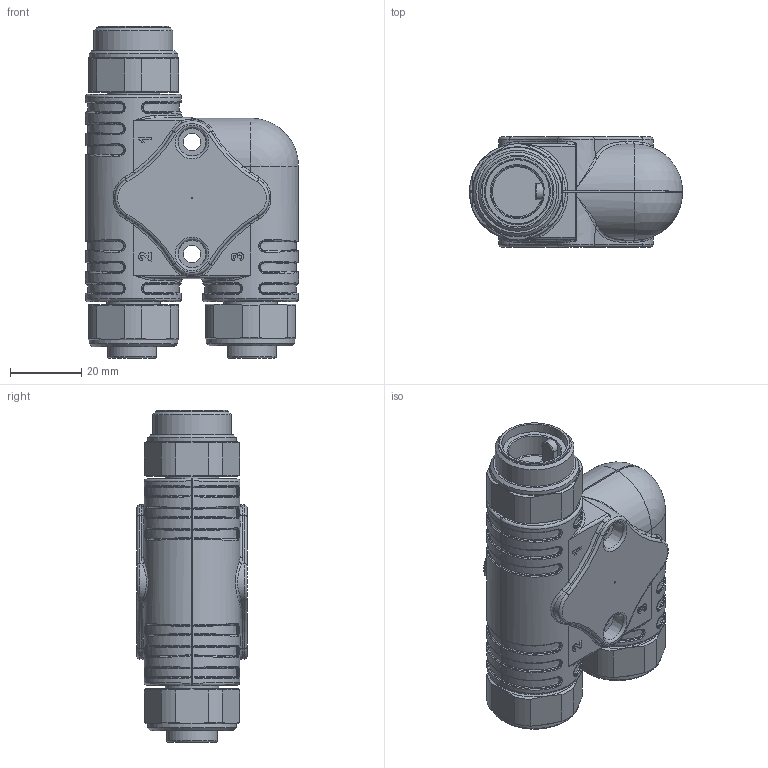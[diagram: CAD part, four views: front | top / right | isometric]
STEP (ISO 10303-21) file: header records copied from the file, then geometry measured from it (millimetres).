
FILE_DESCRIPTION(/* description */ (''),/* implementation_level */ '2;1');
FILE_NAME(/* name */ 'L:\CAD Inventor\Workspace\Catalogs\CATALOG-TURCK CONNECTORS\SH-RSV-2RKV-POWER.stp',/* time_stamp */ '2021-08-05T12:59:37-05:00',/* author */ ('RSwans'),/* organization */ (''),/* preprocessor_version */ 'ST-DEVELOPER v16.5',/* originating_system */ 'Autodesk Inventor 2017',/* authorisation */ '');
FILE_SCHEMA (('AUTOMOTIVE_DESIGN { 1 0 10303 214 3 1 1 }'));
Products named in the file (1): Part6
Bounding box: 60 x 31 x 93.5 mm (x, y, z)
Volume: 59420.5 mm3; surface area: 40196.9 mm2
Topology: 1 solids, 27 shells, 2286 faces, 5976 edges, 3719 vertices
Faces by surface type: plane 742, cylinder 629, bspline 463, torus 254, cone 164, sphere 34
Full cylindrical faces by diameter (mm): 0.5 x1, 1.9 x8, 2 x6, 2.1 x14, 2.2 x4, 3 x4, 3.2 x8, 3.3 x8, 5.206 x2, 6.5 x4, 13.4 x3, 13.75 x3, 14 x2, 15 x6, 15.2 x9, 15.5 x3, 16 x3, 18 x3, 18.6 x1, 19.05 x3, 19.5 x1, 19.9 x1, 20.498 x2, 22.225 x1, 22.5 x2, 25 x3
Entity records: 125278 total; most frequent: CARTESIAN_POINT 74500, ORIENTED_EDGE 11070, DIRECTION 9187, EDGE_CURVE 5534, AXIS2_PLACEMENT_3D 3590, VERTEX_POINT 3585, EDGE_LOOP 2673, FACE_OUTER_BOUND 2285
